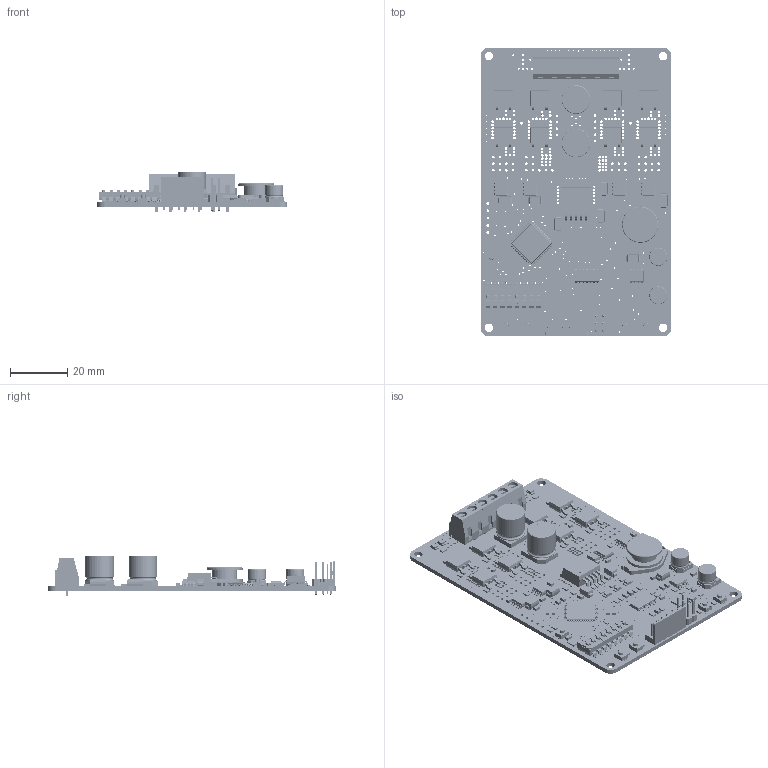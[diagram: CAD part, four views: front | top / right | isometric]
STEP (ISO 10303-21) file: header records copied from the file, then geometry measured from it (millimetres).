
FILE_DESCRIPTION(/* description */ (''),/* implementation_level */ '2;1');
FILE_NAME(/* name */ 'MDDS10.step',/* time_stamp */ '2023-06-07T16:25:34+08:00',/* author */ (''),/* organization */ (''),/* preprocessor_version */ 'ST-DEVELOPER v19.2',/* originating_system */ 'Autodesk Translation Framework v12.6.0.85',/* authorisation */ '');
FILE_SCHEMA (('AUTOMOTIVE_DESIGN { 1 0 10303 214 3 1 1 }'));
Products named in the file (29): (Unsaved); Board; Packages; 2600-06-LOCK; SOIC-14N; TO-263-5; TQFP-44-08; L-2012; L-JDO5022; PTC-4532; HDR-M1X03-LOCK; TERMINAL-KF127-2P; TERMINAL-KF127-3P-b_Green; TERMINAL-KF127-3P-a_Green; DPAK; SOIC-08N; CCAP-2012; D-SMA; ECAP-CHEMICON-F; ECAP-CHEMICON-J; LED-3216; NTC-1608; R-2012; RN-3216; S-SW-PBM-KAN0444; SW-DIP-8-SMD; LED-3216 (1); LED-3216 (2); LED-3216 (3)
Assembly tree (119 placements, depth 4):
  (Unsaved)
    Board
    Packages
      2600-06-LOCK
      SOIC-14N
      TO-263-5
      TQFP-44-08
      L-2012
      L-JDO5022
      PTC-4532
      HDR-M1X03-LOCK  x2
      TERMINAL-KF127-2P  x3
        TERMINAL-KF127-3P-b_Green
        TERMINAL-KF127-3P-a_Green
      DPAK  x8
      SOIC-08N  x5
      CCAP-2012  x25
      D-SMA  x7
      ECAP-CHEMICON-F  x2
      ECAP-CHEMICON-J  x2
      LED-3216  x5
      NTC-1608  x2
      R-2012  x36
      RN-3216  x2
      S-SW-PBM-KAN0444  x5
      SW-DIP-8-SMD
      LED-3216 (1)
      LED-3216 (2)
      LED-3216 (3)
Bounding box: 66.8 x 101.09 x 14.21 mm (x, y, z)
Volume: 17756.8 mm3; surface area: 26461.6 mm2
Topology: 208 solids, 208 shells, 7039 faces, 18803 edges, 12190 vertices
Faces by surface type: plane 5226, cylinder 1668, bspline 59, torus 54, sphere 32
Full cylindrical faces by diameter (mm): 0.3 x1, 0.381 x40, 0.4 x1, 0.508 x141, 0.57 x8, 0.6 x24, 0.762 x53, 0.889 x200, 1 x5, 1.016 x20, 1.1 x6, 1.194 x1, 1.75 x5, 2.4 x1, 3 x1, 3.5 x6, 6.3 x4, 8.8 x1, 10 x4, 12.7 x2
Entity records: 145242 total; most frequent: CARTESIAN_POINT 30880, ORIENTED_EDGE 23022, DIRECTION 22816, EDGE_CURVE 11511, LINE 8612, VECTOR 8612, VERTEX_POINT 7461, AXIS2_PLACEMENT_3D 7102
